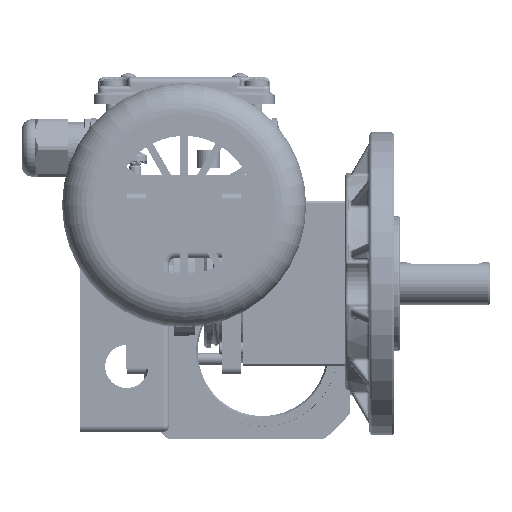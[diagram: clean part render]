
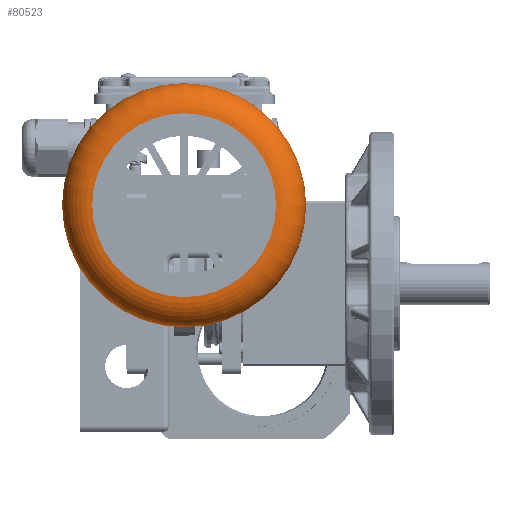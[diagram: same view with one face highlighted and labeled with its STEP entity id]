
A CAD part, left-side view. The second image highlights one B-rep face of the part: STEP entity #80523.
In plain terms, the highlighted toroidal (fillet/blend) face has major radius 30.5 mm and minor radius 10 mm.
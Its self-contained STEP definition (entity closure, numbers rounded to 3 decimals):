
#20343=FACE_BOUND('',#28122,.T.);
#23184=FACE_OUTER_BOUND('',#28121,.T.);
#28121=EDGE_LOOP('',(#67515));
#28122=EDGE_LOOP('',(#67516));
#32054=CIRCLE('',#87170,40.5);
#32055=CIRCLE('',#87171,30.5);
#38286=VERTEX_POINT('',#139890);
#38287=VERTEX_POINT('',#139892);
#48552=EDGE_CURVE('',#38286,#38286,#32054,.T.);
#48553=EDGE_CURVE('',#38287,#38287,#32055,.T.);
#67515=ORIENTED_EDGE('',*,*,#48552,.T.);
#67516=ORIENTED_EDGE('',*,*,#48553,.T.);
#77762=TOROIDAL_SURFACE('',#87169,30.5,10.);
#80523=ADVANCED_FACE('',(#23184,#20343),#77762,.T.);
#87169=AXIS2_PLACEMENT_3D('',#139889,#102940,#102941);
#87170=AXIS2_PLACEMENT_3D('',#139891,#102942,#102943);
#87171=AXIS2_PLACEMENT_3D('',#139893,#102944,#102945);
#102940=DIRECTION('center_axis',(0.,0.,-1.));
#102941=DIRECTION('ref_axis',(-1.,0.,0.));
#102942=DIRECTION('center_axis',(0.,0.,-1.));
#102943=DIRECTION('ref_axis',(-1.,0.,0.));
#102944=DIRECTION('center_axis',(0.,0.,1.));
#102945=DIRECTION('ref_axis',(-1.,0.,0.));
#139889=CARTESIAN_POINT('Origin',(0.,0.,10.));
#139890=CARTESIAN_POINT('',(40.5,0.,10.));
#139891=CARTESIAN_POINT('Origin',(0.,0.,10.));
#139892=CARTESIAN_POINT('',(30.5,0.,0.));
#139893=CARTESIAN_POINT('Origin',(0.,0.,0.));
